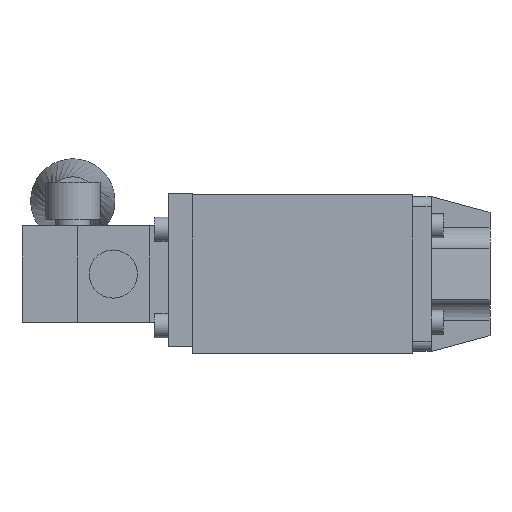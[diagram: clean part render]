
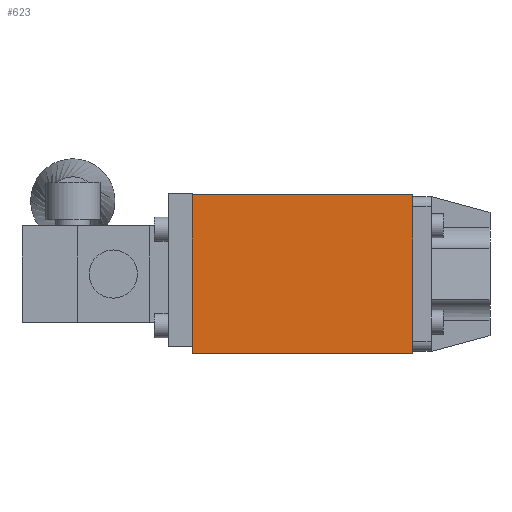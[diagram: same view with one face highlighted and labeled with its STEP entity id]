
A CAD part, front view. The second image highlights one B-rep face of the part: STEP entity #623.
In plain terms, the highlighted planar face has unit normal (0, -1, 0).
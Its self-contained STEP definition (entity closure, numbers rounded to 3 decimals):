
#20 = ORIENTED_EDGE ( 'NONE', *, *, #3164, .T. ) ;
#23 = VECTOR ( 'NONE', #2717, 1000. ) ;
#348 = LINE ( 'NONE', #4053, #2381 ) ;
#466 = LINE ( 'NONE', #3640, #2365 ) ;
#623 = ADVANCED_FACE ( 'NONE', ( #1859 ), #2858, .F. ) ;
#637 = AXIS2_PLACEMENT_3D ( 'NONE', #2470, #3280, #851 ) ;
#716 = LINE ( 'NONE', #1037, #3674 ) ;
#851 = DIRECTION ( 'NONE',  ( 0., 0., 1. ) ) ;
#882 = VERTEX_POINT ( 'NONE', #4657 ) ;
#975 = LINE ( 'NONE', #5110, #23 ) ;
#1037 = CARTESIAN_POINT ( 'NONE',  ( 20.252, -21.289, 46. ) ) ;
#1451 = DIRECTION ( 'NONE',  ( 0., 0., -1. ) ) ;
#1736 = EDGE_CURVE ( 'NONE', #3470, #4638, #348, .T. ) ;
#1807 = ORIENTED_EDGE ( 'NONE', *, *, #2540, .T. ) ;
#1859 = FACE_OUTER_BOUND ( 'NONE', #3599, .T. ) ;
#2365 = VECTOR ( 'NONE', #4037, 1000. ) ;
#2381 = VECTOR ( 'NONE', #3650, 1000. ) ;
#2382 = CARTESIAN_POINT ( 'NONE',  ( 20.252, -21.289, 46. ) ) ;
#2470 = CARTESIAN_POINT ( 'NONE',  ( -43.748, -21.289, 46. ) ) ;
#2540 = EDGE_CURVE ( 'NONE', #3953, #882, #975, .T. ) ;
#2717 = DIRECTION ( 'NONE',  ( 1., 0., 0. ) ) ;
#2858 = PLANE ( 'NONE',  #637 ) ;
#3164 = EDGE_CURVE ( 'NONE', #3470, #3953, #466, .T. ) ;
#3280 = DIRECTION ( 'NONE',  ( 0., 1., 0. ) ) ;
#3470 = VERTEX_POINT ( 'NONE', #5040 ) ;
#3521 = EDGE_CURVE ( 'NONE', #4638, #882, #716, .T. ) ;
#3599 = EDGE_LOOP ( 'NONE', ( #1807, #4473, #4452, #20 ) ) ;
#3640 = CARTESIAN_POINT ( 'NONE',  ( -43.748, -21.289, 46. ) ) ;
#3650 = DIRECTION ( 'NONE',  ( 1., 0., 0. ) ) ;
#3674 = VECTOR ( 'NONE', #1451, 1000. ) ;
#3722 = CARTESIAN_POINT ( 'NONE',  ( -43.748, -21.289, 0. ) ) ;
#3953 = VERTEX_POINT ( 'NONE', #3722 ) ;
#4037 = DIRECTION ( 'NONE',  ( 0., 0., -1. ) ) ;
#4053 = CARTESIAN_POINT ( 'NONE',  ( -43.748, -21.289, 46. ) ) ;
#4452 = ORIENTED_EDGE ( 'NONE', *, *, #1736, .F. ) ;
#4473 = ORIENTED_EDGE ( 'NONE', *, *, #3521, .F. ) ;
#4638 = VERTEX_POINT ( 'NONE', #2382 ) ;
#4657 = CARTESIAN_POINT ( 'NONE',  ( 20.252, -21.289, 0. ) ) ;
#5040 = CARTESIAN_POINT ( 'NONE',  ( -43.748, -21.289, 46. ) ) ;
#5110 = CARTESIAN_POINT ( 'NONE',  ( -43.748, -21.289, 0. ) ) ;
